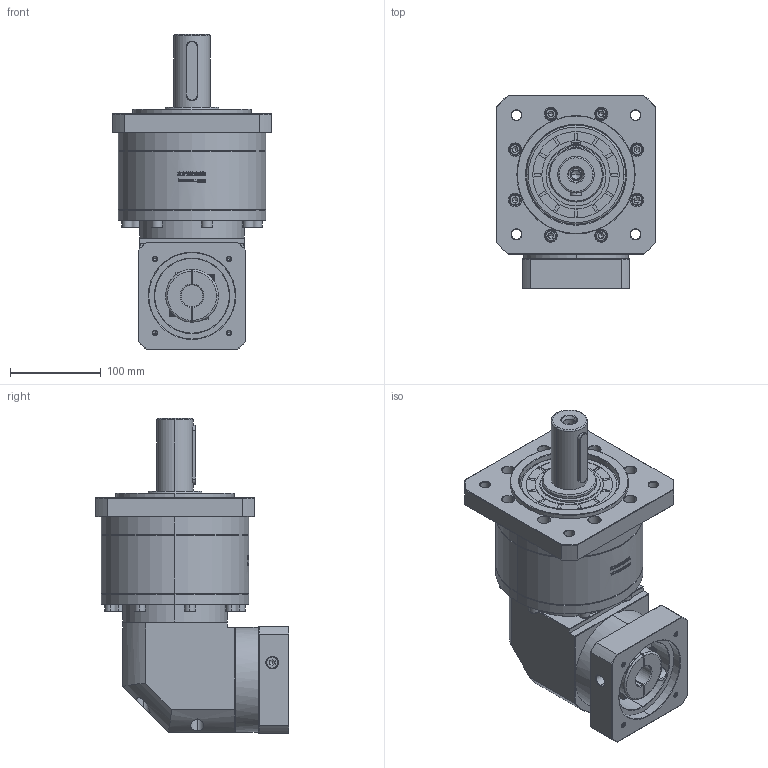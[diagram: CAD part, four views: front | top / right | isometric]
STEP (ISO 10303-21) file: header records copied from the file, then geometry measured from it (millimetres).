
FILE_DESCRIPTION (( 'STEP AP214' ), '1' );
FILE_NAME ('ZFR160A-D40-L2-24-95-115-M6.step', '2023-03-25T01:55:42', ( '' ), ( '' ), 'SwSTEP 2.0', 'SolidWorks 2016', '' );
FILE_SCHEMA (( 'AUTOMOTIVE_DESIGN' ));
Length unit declared in the file: millimetre
Products named in the file (1): ZFR160A-D40-L2-24-95-115-M6
Bounding box: 175 x 212.4 x 346.2 mm (x, y, z)
Volume: 4925886.1 mm3; surface area: 335889.2 mm2
Topology: 6 solids, 6 shells, 2770 faces, 7229 edges, 4631 vertices
Faces by surface type: plane 1372, bspline 501, cylinder 481, cone 370, torus 46
Entity records: 150506 total; most frequent: CARTESIAN_POINT 56330, ORIENTED_EDGE 14350, DIRECTION 11347, EDGE_CURVE 7175, VERTEX_POINT 4631, LINE 4481, VECTOR 4481, AXIS2_PLACEMENT_3D 3433
